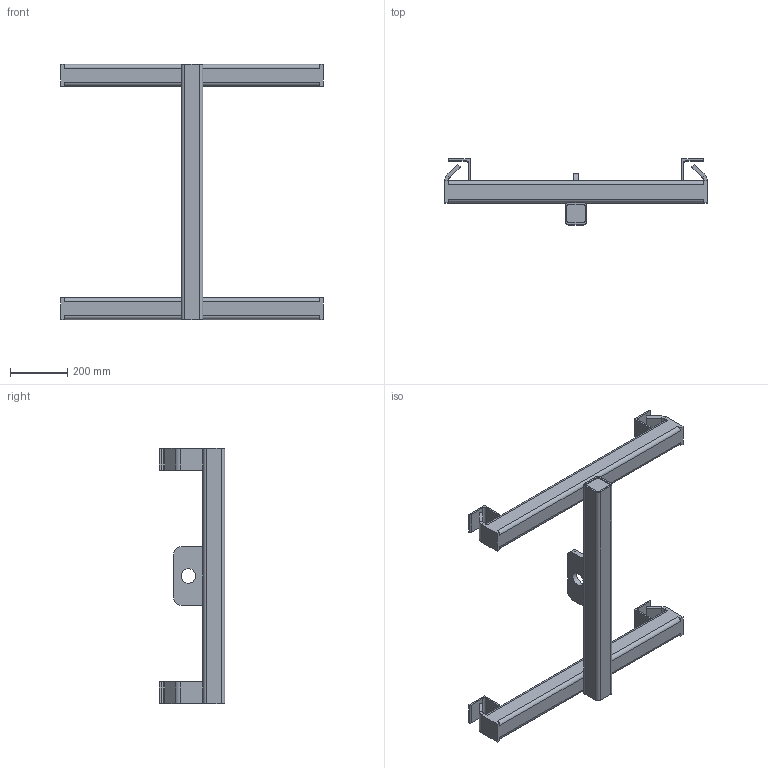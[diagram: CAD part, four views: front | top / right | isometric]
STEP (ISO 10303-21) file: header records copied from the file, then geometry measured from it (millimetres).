
FILE_DESCRIPTION(/* description */ ('Part > iProperties > Project > Description'),/* implementation_level */ '2;1');
FILE_NAME(/* name */ 'B:\Inventor Files\Parts\Adapters\CA-100\BL100-CA.stp',/* time_stamp */ '2018-11-16T11:32:29-06:00',/* author */ ('REKleeschulte'),/* organization */ (''),/* preprocessor_version */ 'ST-DEVELOPER v15.6',/* originating_system */ 'Autodesk Inventor 2015',/* authorisation */ '');
FILE_SCHEMA (('AUTOMOTIVE_DESIGN { 1 0 10303 214 3 1 1 }'));
Length unit declared in the file: inch
Products named in the file (1): Part5
Bounding box: 914.4 x 228.6 x 889 mm (x, y, z)
Volume: 5680844.8 mm3; surface area: 1656181.1 mm2
Topology: 1 solids, 4 shells, 190 faces, 481 edges, 302 vertices
Faces by surface type: plane 135, cylinder 55
Full cylindrical faces by diameter (mm): 50.8 x1
Entity records: 5843 total; most frequent: CARTESIAN_POINT 973, DIRECTION 972, ORIENTED_EDGE 960, EDGE_CURVE 480, LINE 370, VECTOR 370, VERTEX_POINT 302, AXIS2_PLACEMENT_3D 301
